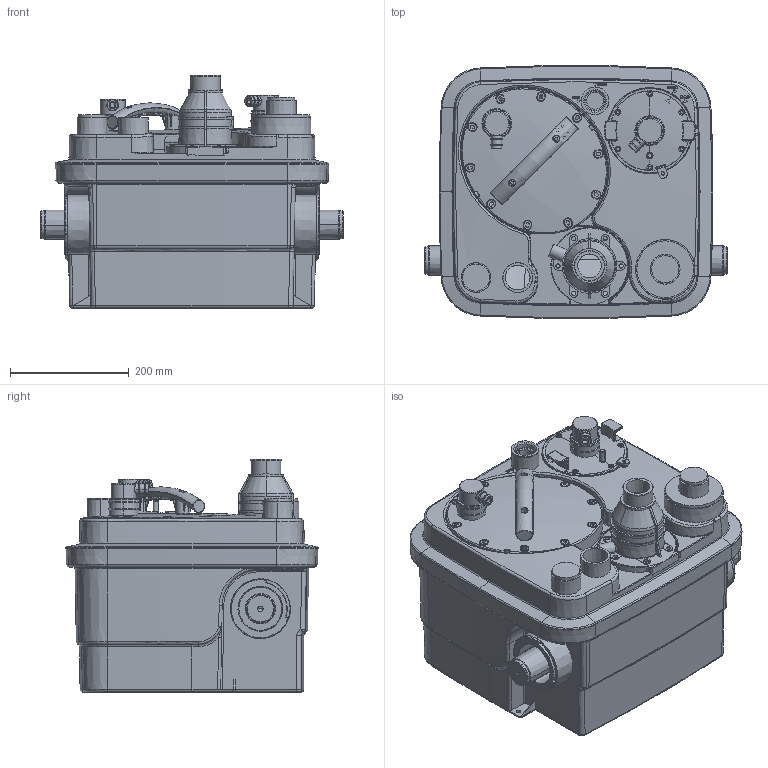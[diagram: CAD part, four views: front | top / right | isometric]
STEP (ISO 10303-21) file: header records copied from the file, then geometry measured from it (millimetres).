
FILE_DESCRIPTION (( 'STEP AP214' ), '1' );
FILE_NAME ('CUBIC 1 WP.STEP', '2017-03-01T10:30:08', ( 'VHUMBERT' ), ( '' ), 'SwSTEP 2.0', 'SolidWorks 2015', '' );
FILE_SCHEMA (( 'AUTOMOTIVE_DESIGN' ));
Length unit declared in the file: millimetre
Products named in the file (1): CUBIC 1 WP
Bounding box: 507.85 x 424.82 x 392.1 mm (x, y, z)
Volume: 5380726.4 mm3; surface area: 2138545.4 mm2
Topology: 1 solids, 2 shells, 2475 faces, 6236 edges, 3885 vertices
Faces by surface type: plane 738, bspline 618, cylinder 417, cone 333, torus 321, sphere 48
Entity records: 155821 total; most frequent: CARTESIAN_POINT 75452, ORIENTED_EDGE 12424, DIRECTION 9459, EDGE_CURVE 6212, VERTEX_POINT 3885, AXIS2_PLACEMENT_3D 3828, EDGE_LOOP 2671, FACE_OUTER_BOUND 2475
